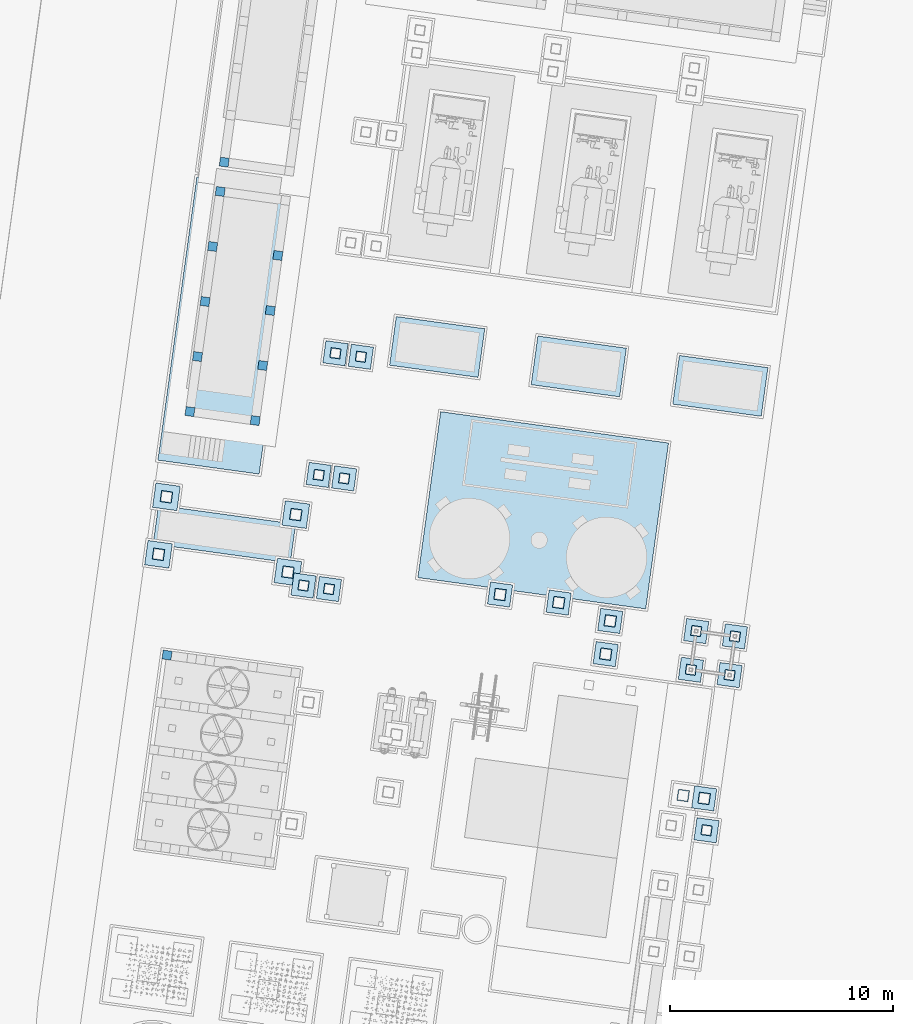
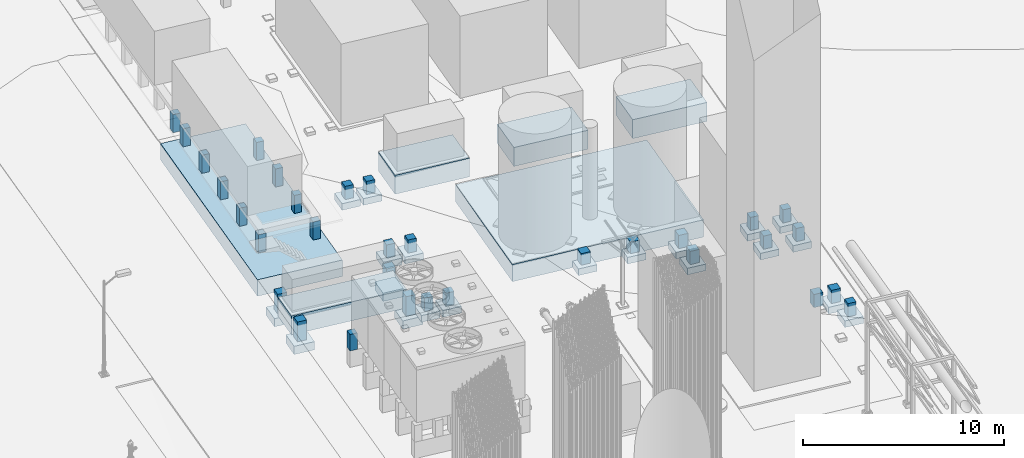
# Not in any storey, part 5 of 75: 58 footings.
"""IFC4 model written with IfcOpenShell, lengths in metres."""

from ifc_helpers import new_model, si_unit, direction, origin, origin_with_axes, place, context, subcontext, project, spatial, triangles, material, element, save


model = new_model("IFC4")

# Units and contexts
model_context = context("Model", 3, precision=1e-05, world=origin_with_axes(), true_north=direction((0.0, 1.0)))
body_context = subcontext(model_context, "Body", "Model", "MODEL_VIEW")
ifc_project = project(units=[si_unit("AREAUNIT", "SQUARE_METRE"), si_unit("VOLUMEUNIT", "CUBIC_METRE"), si_unit("LENGTHUNIT", "METRE")], contexts=[model_context])

# Site
site_placement = place(None, origin_with_axes())
site = spatial("IfcSite", under=ifc_project, at=site_placement, Name="Parcela industrial Jinhong")

# Footings
footing_1_placement = place(None, origin())
element("IfcFooting", 1, at=footing_1_placement, inside=site, Name="Base del preenfriador RU1101A · cuerpo de hormigón", PredefinedType="PAD_FOOTING", context=body_context, shape_type="Tessellation", body=[
    triangles([(51.276307, 65.996705, 0.1), (50.976658, 63.817207, 0.1), (47.013935, 64.362023, 0.1), (47.313583, 66.541521, 0.1), (51.276307, 65.996705, 1.25), (50.976658, 63.817207, 1.25), (47.013935, 64.362023, 1.25), (47.313583, 66.541521, 1.25)], [[1, 2, 3], [3, 4, 1], [7, 6, 5], [5, 8, 7], [5, 6, 1], [1, 6, 2], [6, 7, 2], [2, 7, 3], [8, 5, 4], [4, 5, 1], [7, 8, 3], [3, 8, 4]], closed=True),
])
footing_2_placement = place(None, origin())
element("IfcFooting", 2, at=footing_2_placement, inside=site, Name="Base del preenfriador RU1101B · cuerpo de hormigón", PredefinedType="PAD_FOOTING", context=body_context, shape_type="Tessellation", body=[
    triangles([(57.616664, 65.125, 0.1), (57.317015, 62.945502, 0.1), (53.354292, 63.490318, 0.1), (53.653941, 65.669816, 0.1), (57.616664, 65.125, 1.25), (57.317015, 62.945502, 1.25), (53.354292, 63.490318, 1.25), (53.653941, 65.669816, 1.25)], [[1, 2, 3], [3, 4, 1], [7, 6, 5], [5, 8, 7], [5, 6, 1], [1, 6, 2], [6, 7, 2], [2, 7, 3], [8, 5, 4], [4, 5, 1], [7, 8, 3], [3, 8, 4]], closed=True),
])
footing_3_placement = place(None, origin())
element("IfcFooting", 3, at=footing_3_placement, inside=site, Name="Base del preenfriador RU1101C · cuerpo de hormigón", PredefinedType="PAD_FOOTING", context=body_context, shape_type="Tessellation", body=[
    triangles([(63.957021, 64.253295, 0.1), (63.657372, 62.073797, 0.1), (59.694649, 62.618613, 0.1), (59.994298, 64.798111, 0.1), (63.957021, 64.253295, 1.25), (63.657372, 62.073797, 1.25), (59.694649, 62.618613, 1.25), (59.994298, 64.798111, 1.25)], [[1, 2, 3], [3, 4, 1], [7, 6, 5], [5, 8, 7], [5, 6, 1], [1, 6, 2], [6, 7, 2], [2, 7, 3], [8, 5, 4], [4, 5, 1], [7, 8, 3], [3, 8, 4]], closed=True),
])
footing_4_placement = place(None, origin())
element("IfcFooting", 4, at=footing_4_placement, inside=site, Name="Cimentación de purificación · cuerpo de hormigón", PredefinedType="PAD_FOOTING", context=body_context, shape_type="Tessellation", body=[
    triangles([(48.280284, 54.850905, 0.1), (49.301814, 62.281012, 0.1), (59.505826, 60.878111, 0.1), (58.484297, 53.448005, 0.1), (48.280284, 54.850905, 1.15), (49.301814, 62.281012, 1.15), (59.505826, 60.878111, 1.15), (58.484297, 53.448005, 1.15)], [[1, 2, 3], [3, 4, 1], [7, 6, 5], [5, 8, 7], [5, 6, 1], [1, 6, 2], [6, 7, 2], [2, 7, 3], [8, 5, 4], [4, 5, 1], [7, 8, 3], [3, 8, 4]], closed=True),
])
footing_5_placement = place(None, origin())
element("IfcFooting", 5, at=footing_5_placement, inside=site, Name="Cimentación común de torres de refrigeración · pilar DZ9 01", PredefinedType="PAD_FOOTING", context=body_context, shape_type="Tessellation", body=[
    triangles([(37.273024, 51.54937, 2.1), (37.218542, 51.153098, 2.1), (36.82227, 51.207579, 2.1), (36.876751, 51.603852, 2.1), (37.273024, 51.54937, 3.1), (37.218542, 51.153098, 3.1), (36.82227, 51.207579, 3.1), (36.876751, 51.603852, 3.1)], [[1, 2, 3], [3, 4, 1], [7, 6, 5], [5, 8, 7], [5, 6, 1], [1, 6, 2], [6, 7, 2], [2, 7, 3], [8, 5, 4], [4, 5, 1], [7, 8, 3], [3, 8, 4]], closed=True),
])
footing_6_placement = place(None, origin())
element("IfcFooting", 6, at=footing_6_placement, inside=site, Name="Base de bombas y dosificación · cuerpo de hormigón", PredefinedType="PAD_FOOTING", context=body_context, shape_type="Tessellation", body=[
    triangles([(42.805201, 57.243934, 0.1), (42.566844, 55.510243, 0.1), (36.424623, 56.354707, 0.1), (36.66298, 58.088399, 0.1), (42.805201, 57.243934, 1.25), (42.566844, 55.510243, 1.25), (36.424623, 56.354707, 1.25), (36.66298, 58.088399, 1.25)], [[1, 2, 3], [3, 4, 1], [7, 6, 5], [5, 8, 7], [5, 6, 1], [1, 6, 2], [6, 7, 2], [2, 7, 3], [8, 5, 4], [4, 5, 1], [7, 8, 3], [3, 8, 4]], closed=True),
])
footing_7_placement = place(None, origin())
element("IfcFooting", 7, at=footing_7_placement, inside=site, Name="Cimentación y plataforma del módulo LV-CONTAINER · pilar KZ1 06", PredefinedType="PAD_FOOTING", context=body_context, shape_type="Tessellation", body=[
    triangles([(39.437583, 73.680795, 1.1), (39.833855, 73.626314, 1.1), (39.779373, 73.230041, 1.1), (39.383101, 73.284523, 1.1), (39.437583, 73.680795, 2.2), (39.833855, 73.626314, 2.2), (39.779373, 73.230041, 2.2), (39.383101, 73.284523, 2.2)], [[1, 2, 3], [3, 4, 1], [7, 6, 5], [5, 8, 7], [5, 6, 1], [1, 6, 2], [6, 7, 2], [2, 7, 3], [8, 5, 4], [4, 5, 1], [7, 8, 3], [3, 8, 4]], closed=True),
])
footing_8_placement = place(None, origin())
element("IfcFooting", 8, at=footing_8_placement, inside=site, Name="Cimentación y plataforma del módulo IC-CONTAINER · cuerpo de hormigón", PredefinedType="PAD_FOOTING", context=body_context, shape_type="Tessellation", body=[
    triangles([(38.381594, 72.791336, 0.1), (42.913959, 72.168203, 0.1), (41.170548, 59.487489, 0.1), (36.638184, 60.110622, 0.1), (38.381594, 72.791336, 1.1), (42.913959, 72.168203, 1.1), (41.170548, 59.487489, 1.1), (36.638184, 60.110622, 1.1)], [[1, 2, 3], [3, 4, 1], [7, 6, 5], [5, 8, 7], [5, 6, 1], [1, 6, 2], [6, 7, 2], [2, 7, 3], [8, 5, 4], [4, 5, 1], [7, 8, 3], [3, 8, 4]], closed=True),
])
footing_9_placement = place(None, origin())
element("IfcFooting", 9, at=footing_9_placement, inside=site, Name="Cimentación y plataforma del módulo IC-CONTAINER · pilar KZ1 01", PredefinedType="PAD_FOOTING", context=body_context, shape_type="Tessellation", body=[
    triangles([(40.824392, 62.109067, 1.1), (41.220664, 62.054586, 1.1), (41.166183, 61.658313, 1.1), (40.76991, 61.712795, 1.1), (40.824392, 62.109067, 2.2), (41.220664, 62.054586, 2.2), (41.166183, 61.658313, 2.2), (40.76991, 61.712795, 2.2)], [[1, 2, 3], [3, 4, 1], [7, 6, 5], [5, 8, 7], [5, 6, 1], [1, 6, 2], [6, 7, 2], [2, 7, 3], [8, 5, 4], [4, 5, 1], [7, 8, 3], [3, 8, 4]], closed=True),
])
footing_10_placement = place(None, origin())
element("IfcFooting", 10, at=footing_10_placement, inside=site, Name="Cimentación y plataforma del módulo IC-CONTAINER · pilar KZ1 02", PredefinedType="PAD_FOOTING", context=body_context, shape_type="Tessellation", body=[
    triangles([(41.163199, 64.573386, 1.1), (41.559471, 64.518904, 1.1), (41.50499, 64.122632, 1.1), (41.108717, 64.177114, 1.1), (41.163199, 64.573386, 2.2), (41.559471, 64.518904, 2.2), (41.50499, 64.122632, 2.2), (41.108717, 64.177114, 2.2)], [[1, 2, 3], [3, 4, 1], [7, 6, 5], [5, 8, 7], [5, 6, 1], [1, 6, 2], [6, 7, 2], [2, 7, 3], [8, 5, 4], [4, 5, 1], [7, 8, 3], [3, 8, 4]], closed=True),
])
footing_11_placement = place(None, origin())
element("IfcFooting", 11, at=footing_11_placement, inside=site, Name="Cimentación y plataforma del módulo IC-CONTAINER · pilar KZ1 03", PredefinedType="PAD_FOOTING", context=body_context, shape_type="Tessellation", body=[
    triangles([(41.502006, 67.037704, 1.1), (41.898279, 66.983223, 1.1), (41.843797, 66.586951, 1.1), (41.447525, 66.641432, 1.1), (41.502006, 67.037704, 2.2), (41.898279, 66.983223, 2.2), (41.843797, 66.586951, 2.2), (41.447525, 66.641432, 2.2)], [[1, 2, 3], [3, 4, 1], [7, 6, 5], [5, 8, 7], [5, 6, 1], [1, 6, 2], [6, 7, 2], [2, 7, 3], [8, 5, 4], [4, 5, 1], [7, 8, 3], [3, 8, 4]], closed=True),
])
footing_12_placement = place(None, origin())
element("IfcFooting", 12, at=footing_12_placement, inside=site, Name="Cimentación y plataforma del módulo IC-CONTAINER · pilar KZ1 04", PredefinedType="PAD_FOOTING", context=body_context, shape_type="Tessellation", body=[
    triangles([(41.840814, 69.502023, 1.1), (42.237086, 69.447541, 1.1), (42.182604, 69.051269, 1.1), (41.786332, 69.105751, 1.1), (41.840814, 69.502023, 2.2), (42.237086, 69.447541, 2.2), (42.182604, 69.051269, 2.2), (41.786332, 69.105751, 2.2)], [[1, 2, 3], [3, 4, 1], [7, 6, 5], [5, 8, 7], [5, 6, 1], [1, 6, 2], [6, 7, 2], [2, 7, 3], [8, 5, 4], [4, 5, 1], [7, 8, 3], [3, 8, 4]], closed=True),
])
footing_13_placement = place(None, origin())
element("IfcFooting", 13, at=footing_13_placement, inside=site, Name="Cimentación y plataforma del módulo IC-CONTAINER · pilar KZ1 06", PredefinedType="PAD_FOOTING", context=body_context, shape_type="Tessellation", body=[
    triangles([(37.901883, 62.510869, 1.1), (38.298156, 62.456387, 1.1), (38.243674, 62.060115, 1.1), (37.847402, 62.114597, 1.1), (37.901883, 62.510869, 2.2), (38.298156, 62.456387, 2.2), (38.243674, 62.060115, 2.2), (37.847402, 62.114597, 2.2)], [[1, 2, 3], [3, 4, 1], [7, 6, 5], [5, 8, 7], [5, 6, 1], [1, 6, 2], [6, 7, 2], [2, 7, 3], [8, 5, 4], [4, 5, 1], [7, 8, 3], [3, 8, 4]], closed=True),
])
footing_14_placement = place(None, origin())
element("IfcFooting", 14, at=footing_14_placement, inside=site, Name="Cimentación y plataforma del módulo IC-CONTAINER · pilar KZ1 07", PredefinedType="PAD_FOOTING", context=body_context, shape_type="Tessellation", body=[
    triangles([(38.240691, 64.975188, 1.1), (38.636963, 64.920706, 1.1), (38.582481, 64.524434, 1.1), (38.186209, 64.578915, 1.1), (38.240691, 64.975188, 2.2), (38.636963, 64.920706, 2.2), (38.582481, 64.524434, 2.2), (38.186209, 64.578915, 2.2)], [[1, 2, 3], [3, 4, 1], [7, 6, 5], [5, 8, 7], [5, 6, 1], [1, 6, 2], [6, 7, 2], [2, 7, 3], [8, 5, 4], [4, 5, 1], [7, 8, 3], [3, 8, 4]], closed=True),
])
footing_15_placement = place(None, origin())
element("IfcFooting", 15, at=footing_15_placement, inside=site, Name="Cimentación y plataforma del módulo IC-CONTAINER · pilar KZ1 08", PredefinedType="PAD_FOOTING", context=body_context, shape_type="Tessellation", body=[
    triangles([(38.579498, 67.439506, 1.1), (38.97577, 67.385024, 1.1), (38.921289, 66.988752, 1.1), (38.525016, 67.043234, 1.1), (38.579498, 67.439506, 2.2), (38.97577, 67.385024, 2.2), (38.921289, 66.988752, 2.2), (38.525016, 67.043234, 2.2)], [[1, 2, 3], [3, 4, 1], [7, 6, 5], [5, 8, 7], [5, 6, 1], [1, 6, 2], [6, 7, 2], [2, 7, 3], [8, 5, 4], [4, 5, 1], [7, 8, 3], [3, 8, 4]], closed=True),
])
footing_16_placement = place(None, origin())
element("IfcFooting", 16, at=footing_16_placement, inside=site, Name="Cimentación y plataforma del módulo IC-CONTAINER · pilar KZ1 09", PredefinedType="PAD_FOOTING", context=body_context, shape_type="Tessellation", body=[
    triangles([(38.918305, 69.903825, 1.1), (39.314577, 69.849343, 1.1), (39.260096, 69.453071, 1.1), (38.863824, 69.507552, 1.1), (38.918305, 69.903825, 2.2), (39.314577, 69.849343, 2.2), (39.260096, 69.453071, 2.2), (38.863824, 69.507552, 2.2)], [[1, 2, 3], [3, 4, 1], [7, 6, 5], [5, 8, 7], [5, 6, 1], [1, 6, 2], [6, 7, 2], [2, 7, 3], [8, 5, 4], [4, 5, 1], [7, 8, 3], [3, 8, 4]], closed=True),
])
footing_17_placement = place(None, origin())
element("IfcFooting", 17, at=footing_17_placement, inside=site, Name="Cimentación y plataforma del módulo IC-CONTAINER · pilar KZ1 10", PredefinedType="PAD_FOOTING", context=body_context, shape_type="Tessellation", body=[
    triangles([(39.257112, 72.368143, 1.1), (39.653385, 72.313662, 1.1), (39.598903, 71.917389, 1.1), (39.202631, 71.971871, 1.1), (39.257112, 72.368143, 2.2), (39.653385, 72.313662, 2.2), (39.598903, 71.917389, 2.2), (39.202631, 71.971871, 2.2)], [[1, 2, 3], [3, 4, 1], [7, 6, 5], [5, 8, 7], [5, 6, 1], [1, 6, 2], [6, 7, 2], [2, 7, 3], [8, 5, 4], [4, 5, 1], [7, 8, 3], [3, 8, 4]], closed=True),
])
ifc_material = material(Name="Hormigón HA-30", Category="Material documentado")
footing_18_placement = place(None, origin())
element("IfcFooting", 18, at=footing_18_placement, inside=site, material=ifc_material, Name="Cimentación de soporte de tuberías C11 · cuerpo de hormigón", PredefinedType="PAD_FOOTING", context=body_context, shape_type="Tessellation", body=[
    triangles([(44.025798, 64.470025, 0.1), (44.162002, 65.460706, 0.1), (45.152683, 65.324502, 0.1), (45.016479, 64.333822, 0.1), (44.025798, 64.470025, 0.5), (44.162002, 65.460706, 0.5), (45.152683, 65.324502, 0.5), (45.016479, 64.333822, 0.5)], [[1, 2, 3], [3, 4, 1], [7, 6, 5], [5, 8, 7], [5, 6, 1], [1, 6, 2], [6, 7, 2], [2, 7, 3], [8, 5, 4], [4, 5, 1], [7, 8, 3], [3, 8, 4]], closed=True),
])
footing_19_placement = place(None, origin())
element("IfcFooting", 19, at=footing_19_placement, inside=site, material=ifc_material, Name="Cimentación de soporte de tuberías C11 · pedestal de hormigón", PredefinedType="PAD_FOOTING", context=body_context, shape_type="Tessellation", body=[
    triangles([(44.335691, 64.705007, 0.5), (44.396983, 65.150813, 0.5), (44.842789, 65.089521, 0.5), (44.781498, 64.643715, 0.5), (44.335691, 64.705007, 1.3), (44.396983, 65.150813, 1.3), (44.842789, 65.089521, 1.3), (44.781498, 64.643715, 1.3)], [[1, 2, 3], [3, 4, 1], [7, 6, 5], [5, 8, 7], [5, 6, 1], [1, 6, 2], [6, 7, 2], [2, 7, 3], [8, 5, 4], [4, 5, 1], [7, 8, 3], [3, 8, 4]], closed=True),
])
footing_20_placement = place(None, origin())
element("IfcFooting", 20, at=footing_20_placement, inside=site, material=ifc_material, Name="Cimentación de soporte de tuberías C12 · cuerpo de hormigón", PredefinedType="PAD_FOOTING", context=body_context, shape_type="Tessellation", body=[
    triangles([(45.165081, 64.313391, 0.1), (45.301285, 65.304072, 0.1), (46.291966, 65.167868, 0.1), (46.155762, 64.177187, 0.1), (45.165081, 64.313391, 0.5), (45.301285, 65.304072, 0.5), (46.291966, 65.167868, 0.5), (46.155762, 64.177187, 0.5)], [[1, 2, 3], [3, 4, 1], [7, 6, 5], [5, 8, 7], [5, 6, 1], [1, 6, 2], [6, 7, 2], [2, 7, 3], [8, 5, 4], [4, 5, 1], [7, 8, 3], [3, 8, 4]], closed=True),
])
footing_21_placement = place(None, origin())
element("IfcFooting", 21, at=footing_21_placement, inside=site, material=ifc_material, Name="Cimentación de soporte de tuberías C12 · pedestal de hormigón", PredefinedType="PAD_FOOTING", context=body_context, shape_type="Tessellation", body=[
    triangles([(45.474974, 64.548372, 0.5), (45.536266, 64.994178, 0.5), (45.982072, 64.932887, 0.5), (45.920781, 64.48708, 0.5), (45.474974, 64.548372, 1.3), (45.536266, 64.994178, 1.3), (45.982072, 64.932887, 1.3), (45.920781, 64.48708, 1.3)], [[1, 2, 3], [3, 4, 1], [7, 6, 5], [5, 8, 7], [5, 6, 1], [1, 6, 2], [6, 7, 2], [2, 7, 3], [8, 5, 4], [4, 5, 1], [7, 8, 3], [3, 8, 4]], closed=True),
])
footing_22_placement = place(None, origin())
element("IfcFooting", 22, at=footing_22_placement, inside=site, material=ifc_material, Name="Cimentación de soporte de tuberías C13 · cuerpo de hormigón", PredefinedType="PAD_FOOTING", context=body_context, shape_type="Tessellation", body=[
    triangles([(43.276676, 59.021281, 0.1), (43.41288, 60.011962, 0.1), (44.403561, 59.875758, 0.1), (44.267357, 58.885077, 0.1), (43.276676, 59.021281, 0.5), (43.41288, 60.011962, 0.5), (44.403561, 59.875758, 0.5), (44.267357, 58.885077, 0.5)], [[1, 2, 3], [3, 4, 1], [7, 6, 5], [5, 8, 7], [5, 6, 1], [1, 6, 2], [6, 7, 2], [2, 7, 3], [8, 5, 4], [4, 5, 1], [7, 8, 3], [3, 8, 4]], closed=True),
])
footing_23_placement = place(None, origin())
element("IfcFooting", 23, at=footing_23_placement, inside=site, material=ifc_material, Name="Cimentación de soporte de tuberías C13 · pedestal de hormigón", PredefinedType="PAD_FOOTING", context=body_context, shape_type="Tessellation", body=[
    triangles([(43.58657, 59.256262, 0.5), (43.647862, 59.702068, 0.5), (44.093668, 59.640777, 0.5), (44.032376, 59.19497, 0.5), (43.58657, 59.256262, 1.3), (43.647862, 59.702068, 1.3), (44.093668, 59.640777, 1.3), (44.032376, 59.19497, 1.3)], [[1, 2, 3], [3, 4, 1], [7, 6, 5], [5, 8, 7], [5, 6, 1], [1, 6, 2], [6, 7, 2], [2, 7, 3], [8, 5, 4], [4, 5, 1], [7, 8, 3], [3, 8, 4]], closed=True),
])
footing_24_placement = place(None, origin())
element("IfcFooting", 24, at=footing_24_placement, inside=site, material=ifc_material, Name="Cimentación de soporte de tuberías C14 · cuerpo de hormigón", PredefinedType="PAD_FOOTING", context=body_context, shape_type="Tessellation", body=[
    triangles([(44.415959, 58.864646, 0.1), (44.552163, 59.855327, 0.1), (45.542844, 59.719123, 0.1), (45.40664, 58.728443, 0.1), (44.415959, 58.864646, 0.5), (44.552163, 59.855327, 0.5), (45.542844, 59.719123, 0.5), (45.40664, 58.728443, 0.5)], [[1, 2, 3], [3, 4, 1], [7, 6, 5], [5, 8, 7], [5, 6, 1], [1, 6, 2], [6, 7, 2], [2, 7, 3], [8, 5, 4], [4, 5, 1], [7, 8, 3], [3, 8, 4]], closed=True),
])
footing_25_placement = place(None, origin())
element("IfcFooting", 25, at=footing_25_placement, inside=site, material=ifc_material, Name="Cimentación de soporte de tuberías C14 · pedestal de hormigón", PredefinedType="PAD_FOOTING", context=body_context, shape_type="Tessellation", body=[
    triangles([(44.725853, 59.099628, 0.5), (44.787144, 59.545434, 0.5), (45.232951, 59.484142, 0.5), (45.171659, 59.038336, 0.5), (44.725853, 59.099628, 1.3), (44.787144, 59.545434, 1.3), (45.232951, 59.484142, 1.3), (45.171659, 59.038336, 1.3)], [[1, 2, 3], [3, 4, 1], [7, 6, 5], [5, 8, 7], [5, 6, 1], [1, 6, 2], [6, 7, 2], [2, 7, 3], [8, 5, 4], [4, 5, 1], [7, 8, 3], [3, 8, 4]], closed=True),
])
footing_26_placement = place(None, origin())
element("IfcFooting", 26, at=footing_26_placement, inside=site, material=ifc_material, Name="Cimentación de marquesina C15 · cuerpo de hormigón", PredefinedType="PAD_FOOTING", context=body_context, shape_type="Tessellation", body=[
    triangles([(36.398284, 57.998615, -0.4), (36.548109, 59.088363, -0.4), (37.637858, 58.938539, -0.4), (37.488033, 57.84879, -0.4), (36.398284, 57.998615, 0.1), (36.548109, 59.088363, 0.1), (37.637858, 58.938539, 0.1), (37.488033, 57.84879, 0.1)], [[1, 2, 3], [3, 4, 1], [7, 6, 5], [5, 8, 7], [5, 6, 1], [1, 6, 2], [6, 7, 2], [2, 7, 3], [8, 5, 4], [4, 5, 1], [7, 8, 3], [3, 8, 4]], closed=True),
])
footing_27_placement = place(None, origin())
element("IfcFooting", 27, at=footing_27_placement, inside=site, material=ifc_material, Name="Cimentación de marquesina C15 · pedestal de hormigón", PredefinedType="PAD_FOOTING", context=body_context, shape_type="Tessellation", body=[
    triangles([(36.73635, 58.254958, 0.1), (36.804452, 58.750298, 0.1), (37.299792, 58.682196, 0.1), (37.23169, 58.186856, 0.1), (36.73635, 58.254958, 1.3), (36.804452, 58.750298, 1.3), (37.299792, 58.682196, 1.3), (37.23169, 58.186856, 1.3)], [[1, 2, 3], [3, 4, 1], [7, 6, 5], [5, 8, 7], [5, 6, 1], [1, 6, 2], [6, 7, 2], [2, 7, 3], [8, 5, 4], [4, 5, 1], [7, 8, 3], [3, 8, 4]], closed=True),
])
footing_28_placement = place(None, origin())
element("IfcFooting", 28, at=footing_28_placement, inside=site, material=ifc_material, Name="Cimentación de marquesina C16 · cuerpo de hormigón", PredefinedType="PAD_FOOTING", context=body_context, shape_type="Tessellation", body=[
    triangles([(36.044154, 55.422844, -0.4), (36.193978, 56.512593, -0.4), (37.283727, 56.362769, -0.4), (37.133903, 55.27302, -0.4), (36.044154, 55.422844, 0.1), (36.193978, 56.512593, 0.1), (37.283727, 56.362769, 0.1), (37.133903, 55.27302, 0.1)], [[1, 2, 3], [3, 4, 1], [7, 6, 5], [5, 8, 7], [5, 6, 1], [1, 6, 2], [6, 7, 2], [2, 7, 3], [8, 5, 4], [4, 5, 1], [7, 8, 3], [3, 8, 4]], closed=True),
])
footing_29_placement = place(None, origin())
element("IfcFooting", 29, at=footing_29_placement, inside=site, material=ifc_material, Name="Cimentación de marquesina C16 · pedestal de hormigón", PredefinedType="PAD_FOOTING", context=body_context, shape_type="Tessellation", body=[
    triangles([(36.38222, 55.679187, 0.1), (36.450321, 56.174528, 0.1), (36.945662, 56.106426, 0.1), (36.87756, 55.611086, 0.1), (36.38222, 55.679187, 1.3), (36.450321, 56.174528, 1.3), (36.945662, 56.106426, 1.3), (36.87756, 55.611086, 1.3)], [[1, 2, 3], [3, 4, 1], [7, 6, 5], [5, 8, 7], [5, 6, 1], [1, 6, 2], [6, 7, 2], [2, 7, 3], [8, 5, 4], [4, 5, 1], [7, 8, 3], [3, 8, 4]], closed=True),
])
footing_30_placement = place(None, origin())
element("IfcFooting", 30, at=footing_30_placement, inside=site, material=ifc_material, Name="Cimentación de marquesina C17 · cuerpo de hormigón", PredefinedType="PAD_FOOTING", context=body_context, shape_type="Tessellation", body=[
    triangles([(42.193767, 57.201822, -0.4), (42.343591, 58.291571, -0.4), (43.43334, 58.141746, -0.4), (43.283516, 57.051997, -0.4), (42.193767, 57.201822, 0.1), (42.343591, 58.291571, 0.1), (43.43334, 58.141746, 0.1), (43.283516, 57.051997, 0.1)], [[1, 2, 3], [3, 4, 1], [7, 6, 5], [5, 8, 7], [5, 6, 1], [1, 6, 2], [6, 7, 2], [2, 7, 3], [8, 5, 4], [4, 5, 1], [7, 8, 3], [3, 8, 4]], closed=True),
])
footing_31_placement = place(None, origin())
element("IfcFooting", 31, at=footing_31_placement, inside=site, material=ifc_material, Name="Cimentación de marquesina C17 · pedestal de hormigón", PredefinedType="PAD_FOOTING", context=body_context, shape_type="Tessellation", body=[
    triangles([(42.531833, 57.458165, 0.1), (42.599934, 57.953505, 0.1), (43.095275, 57.885403, 0.1), (43.027173, 57.390063, 0.1), (42.531833, 57.458165, 1.3), (42.599934, 57.953505, 1.3), (43.095275, 57.885403, 1.3), (43.027173, 57.390063, 1.3)], [[1, 2, 3], [3, 4, 1], [7, 6, 5], [5, 8, 7], [5, 6, 1], [1, 6, 2], [6, 7, 2], [2, 7, 3], [8, 5, 4], [4, 5, 1], [7, 8, 3], [3, 8, 4]], closed=True),
])
footing_32_placement = place(None, origin())
element("IfcFooting", 32, at=footing_32_placement, inside=site, material=ifc_material, Name="Cimentación de marquesina C18 · cuerpo de hormigón", PredefinedType="PAD_FOOTING", context=body_context, shape_type="Tessellation", body=[
    triangles([(41.839637, 54.626051, -0.4), (41.989461, 55.7158, -0.4), (43.07921, 55.565976, -0.4), (42.929386, 54.476227, -0.4), (41.839637, 54.626051, 0.1), (41.989461, 55.7158, 0.1), (43.07921, 55.565976, 0.1), (42.929386, 54.476227, 0.1)], [[1, 2, 3], [3, 4, 1], [7, 6, 5], [5, 8, 7], [5, 6, 1], [1, 6, 2], [6, 7, 2], [2, 7, 3], [8, 5, 4], [4, 5, 1], [7, 8, 3], [3, 8, 4]], closed=True),
])
footing_33_placement = place(None, origin())
element("IfcFooting", 33, at=footing_33_placement, inside=site, material=ifc_material, Name="Cimentación de marquesina C18 · pedestal de hormigón", PredefinedType="PAD_FOOTING", context=body_context, shape_type="Tessellation", body=[
    triangles([(42.177702, 54.882395, 0.1), (42.245804, 55.377735, 0.1), (42.741145, 55.309633, 0.1), (42.673043, 54.814293, 0.1), (42.177702, 54.882395, 1.3), (42.245804, 55.377735, 1.3), (42.741145, 55.309633, 1.3), (42.673043, 54.814293, 1.3)], [[1, 2, 3], [3, 4, 1], [7, 6, 5], [5, 8, 7], [5, 6, 1], [1, 6, 2], [6, 7, 2], [2, 7, 3], [8, 5, 4], [4, 5, 1], [7, 8, 3], [3, 8, 4]], closed=True),
])
footing_34_placement = place(None, origin())
element("IfcFooting", 34, at=footing_34_placement, inside=site, material=ifc_material, Name="Cimentación de soporte de tuberías C19 · cuerpo de hormigón", PredefinedType="PAD_FOOTING", context=body_context, shape_type="Tessellation", body=[
    triangles([(42.595657, 54.067877, 0.1), (42.731861, 55.058558, 0.1), (43.722542, 54.922354, 0.1), (43.586338, 53.931673, 0.1), (42.595657, 54.067877, 0.5), (42.731861, 55.058558, 0.5), (43.722542, 54.922354, 0.5), (43.586338, 53.931673, 0.5)], [[1, 2, 3], [3, 4, 1], [7, 6, 5], [5, 8, 7], [5, 6, 1], [1, 6, 2], [6, 7, 2], [2, 7, 3], [8, 5, 4], [4, 5, 1], [7, 8, 3], [3, 8, 4]], closed=True),
])
footing_35_placement = place(None, origin())
element("IfcFooting", 35, at=footing_35_placement, inside=site, material=ifc_material, Name="Cimentación de soporte de tuberías C19 · pedestal de hormigón", PredefinedType="PAD_FOOTING", context=body_context, shape_type="Tessellation", body=[
    triangles([(42.90555, 54.302858, 0.5), (42.966842, 54.748664, 0.5), (43.412648, 54.687373, 0.5), (43.351356, 54.241566, 0.5), (42.90555, 54.302858, 1.3), (42.966842, 54.748664, 1.3), (43.412648, 54.687373, 1.3), (43.351356, 54.241566, 1.3)], [[1, 2, 3], [3, 4, 1], [7, 6, 5], [5, 8, 7], [5, 6, 1], [1, 6, 2], [6, 7, 2], [2, 7, 3], [8, 5, 4], [4, 5, 1], [7, 8, 3], [3, 8, 4]], closed=True),
])
footing_36_placement = place(None, origin())
element("IfcFooting", 36, at=footing_36_placement, inside=site, material=ifc_material, Name="Cimentación de soporte de tuberías C20 · cuerpo de hormigón", PredefinedType="PAD_FOOTING", context=body_context, shape_type="Tessellation", body=[
    triangles([(43.73494, 53.911242, 0.1), (43.871144, 54.901923, 0.1), (44.861825, 54.765719, 0.1), (44.725621, 53.775038, 0.1), (43.73494, 53.911242, 0.5), (43.871144, 54.901923, 0.5), (44.861825, 54.765719, 0.5), (44.725621, 53.775038, 0.5)], [[1, 2, 3], [3, 4, 1], [7, 6, 5], [5, 8, 7], [5, 6, 1], [1, 6, 2], [6, 7, 2], [2, 7, 3], [8, 5, 4], [4, 5, 1], [7, 8, 3], [3, 8, 4]], closed=True),
])
footing_37_placement = place(None, origin())
element("IfcFooting", 37, at=footing_37_placement, inside=site, material=ifc_material, Name="Cimentación de soporte de tuberías C20 · pedestal de hormigón", PredefinedType="PAD_FOOTING", context=body_context, shape_type="Tessellation", body=[
    triangles([(44.044833, 54.146223, 0.5), (44.106125, 54.59203, 0.5), (44.551931, 54.530738, 0.5), (44.490639, 54.084932, 0.5), (44.044833, 54.146223, 1.3), (44.106125, 54.59203, 1.3), (44.551931, 54.530738, 1.3), (44.490639, 54.084932, 1.3)], [[1, 2, 3], [3, 4, 1], [7, 6, 5], [5, 8, 7], [5, 6, 1], [1, 6, 2], [6, 7, 2], [2, 7, 3], [8, 5, 4], [4, 5, 1], [7, 8, 3], [3, 8, 4]], closed=True),
])
footing_38_placement = place(None, origin())
element("IfcFooting", 38, at=footing_38_placement, inside=site, material=ifc_material, Name="Cimentación de soporte de tuberías C21 · cuerpo de hormigón", PredefinedType="PAD_FOOTING", context=body_context, shape_type="Tessellation", body=[
    triangles([(51.397844, 53.665232, 0.1), (51.534048, 54.655913, 0.1), (52.524729, 54.519709, 0.1), (52.388525, 53.529028, 0.1), (51.397844, 53.665232, 0.5), (51.534048, 54.655913, 0.5), (52.524729, 54.519709, 0.5), (52.388525, 53.529028, 0.5)], [[1, 2, 3], [3, 4, 1], [7, 6, 5], [5, 8, 7], [5, 6, 1], [1, 6, 2], [6, 7, 2], [2, 7, 3], [8, 5, 4], [4, 5, 1], [7, 8, 3], [3, 8, 4]], closed=True),
])
footing_39_placement = place(None, origin())
element("IfcFooting", 39, at=footing_39_placement, inside=site, material=ifc_material, Name="Cimentación de soporte de tuberías C21 · pedestal de hormigón", PredefinedType="PAD_FOOTING", context=body_context, shape_type="Tessellation", body=[
    triangles([(51.679565, 53.878851, 0.5), (51.747667, 54.374192, 0.5), (52.243008, 54.30609, 0.5), (52.174906, 53.810749, 0.5), (51.679565, 53.878851, 1.2), (51.747667, 54.374192, 1.2), (52.243008, 54.30609, 1.2), (52.174906, 53.810749, 1.2)], [[1, 2, 3], [3, 4, 1], [7, 6, 5], [5, 8, 7], [5, 6, 1], [1, 6, 2], [6, 7, 2], [2, 7, 3], [8, 5, 4], [4, 5, 1], [7, 8, 3], [3, 8, 4]], closed=True),
])
footing_40_placement = place(None, origin())
element("IfcFooting", 40, at=footing_40_placement, inside=site, material=ifc_material, Name="Cimentación de soporte de tuberías C22 · cuerpo de hormigón", PredefinedType="PAD_FOOTING", context=body_context, shape_type="Tessellation", body=[
    triangles([(54.023148, 53.304292, 0.1), (54.159352, 54.294972, 0.1), (55.150033, 54.158769, 0.1), (55.013829, 53.168088, 0.1), (54.023148, 53.304292, 0.5), (54.159352, 54.294972, 0.5), (55.150033, 54.158769, 0.5), (55.013829, 53.168088, 0.5)], [[1, 2, 3], [3, 4, 1], [7, 6, 5], [5, 8, 7], [5, 6, 1], [1, 6, 2], [6, 7, 2], [2, 7, 3], [8, 5, 4], [4, 5, 1], [7, 8, 3], [3, 8, 4]], closed=True),
])
footing_41_placement = place(None, origin())
element("IfcFooting", 41, at=footing_41_placement, inside=site, material=ifc_material, Name="Cimentación de soporte de tuberías C22 · pedestal de hormigón", PredefinedType="PAD_FOOTING", context=body_context, shape_type="Tessellation", body=[
    triangles([(54.30487, 53.517911, 0.5), (54.372971, 54.013251, 0.5), (54.868312, 53.945149, 0.5), (54.80021, 53.449809, 0.5), (54.30487, 53.517911, 1.2), (54.372971, 54.013251, 1.2), (54.868312, 53.945149, 1.2), (54.80021, 53.449809, 1.2)], [[1, 2, 3], [3, 4, 1], [7, 6, 5], [5, 8, 7], [5, 6, 1], [1, 6, 2], [6, 7, 2], [2, 7, 3], [8, 5, 4], [4, 5, 1], [7, 8, 3], [3, 8, 4]], closed=True),
])
footing_42_placement = place(None, origin())
element("IfcFooting", 42, at=footing_42_placement, inside=site, material=ifc_material, Name="Cimentación de soporte de tuberías C23 · cuerpo de hormigón", PredefinedType="PAD_FOOTING", context=body_context, shape_type="Tessellation", body=[
    triangles([(56.33268, 52.482062, 0.1), (56.468884, 53.472743, 0.1), (57.459565, 53.336539, 0.1), (57.323361, 52.345858, 0.1), (56.33268, 52.482062, 0.5), (56.468884, 53.472743, 0.5), (57.459565, 53.336539, 0.5), (57.323361, 52.345858, 0.5)], [[1, 2, 3], [3, 4, 1], [7, 6, 5], [5, 8, 7], [5, 6, 1], [1, 6, 2], [6, 7, 2], [2, 7, 3], [8, 5, 4], [4, 5, 1], [7, 8, 3], [3, 8, 4]], closed=True),
])
footing_43_placement = place(None, origin())
element("IfcFooting", 43, at=footing_43_placement, inside=site, material=ifc_material, Name="Cimentación de soporte de tuberías C23 · pedestal de hormigón", PredefinedType="PAD_FOOTING", context=body_context, shape_type="Tessellation", body=[
    triangles([(56.614402, 52.695681, 0.5), (56.682503, 53.191021, 0.5), (57.177844, 53.12292, 0.5), (57.109742, 52.627579, 0.5), (56.614402, 52.695681, 1.3), (56.682503, 53.191021, 1.3), (57.177844, 53.12292, 1.3), (57.109742, 52.627579, 1.3)], [[1, 2, 3], [3, 4, 1], [7, 6, 5], [5, 8, 7], [5, 6, 1], [1, 6, 2], [6, 7, 2], [2, 7, 3], [8, 5, 4], [4, 5, 1], [7, 8, 3], [3, 8, 4]], closed=True),
])
footing_44_placement = place(None, origin())
element("IfcFooting", 44, at=footing_44_placement, inside=site, material=ifc_material, Name="Cimentación de soporte de tuberías C24 · cuerpo de hormigón", PredefinedType="PAD_FOOTING", context=body_context, shape_type="Tessellation", body=[
    triangles([(56.128374, 50.996041, 0.1), (56.264578, 51.986721, 0.1), (57.255259, 51.850518, 0.1), (57.119055, 50.859837, 0.1), (56.128374, 50.996041, 0.5), (56.264578, 51.986721, 0.5), (57.255259, 51.850518, 0.5), (57.119055, 50.859837, 0.5)], [[1, 2, 3], [3, 4, 1], [7, 6, 5], [5, 8, 7], [5, 6, 1], [1, 6, 2], [6, 7, 2], [2, 7, 3], [8, 5, 4], [4, 5, 1], [7, 8, 3], [3, 8, 4]], closed=True),
])
footing_45_placement = place(None, origin())
element("IfcFooting", 45, at=footing_45_placement, inside=site, material=ifc_material, Name="Cimentación de soporte de tuberías C24 · pedestal de hormigón", PredefinedType="PAD_FOOTING", context=body_context, shape_type="Tessellation", body=[
    triangles([(56.410096, 51.20966, 0.5), (56.478198, 51.705, 0.5), (56.973538, 51.636898, 0.5), (56.905436, 51.141558, 0.5), (56.410096, 51.20966, 1.3), (56.478198, 51.705, 1.3), (56.973538, 51.636898, 1.3), (56.905436, 51.141558, 1.3)], [[1, 2, 3], [3, 4, 1], [7, 6, 5], [5, 8, 7], [5, 6, 1], [1, 6, 2], [6, 7, 2], [2, 7, 3], [8, 5, 4], [4, 5, 1], [7, 8, 3], [3, 8, 4]], closed=True),
])
footing_46_placement = place(None, origin())
element("IfcFooting", 46, at=footing_46_placement, inside=site, material=ifc_material, Name="Cimentación de soporte de tuberías C25 · cuerpo de hormigón", PredefinedType="PAD_FOOTING", context=body_context, shape_type="Tessellation", body=[
    triangles([(60.181784, 52.028573, 0.1), (60.317988, 53.019254, 0.1), (61.308669, 52.88305, 0.1), (61.172465, 51.892369, 0.1), (60.181784, 52.028573, 0.5), (60.317988, 53.019254, 0.5), (61.308669, 52.88305, 0.5), (61.172465, 51.892369, 0.5)], [[1, 2, 3], [3, 4, 1], [7, 6, 5], [5, 8, 7], [5, 6, 1], [1, 6, 2], [6, 7, 2], [2, 7, 3], [8, 5, 4], [4, 5, 1], [7, 8, 3], [3, 8, 4]], closed=True),
])
footing_47_placement = place(None, origin())
element("IfcFooting", 47, at=footing_47_placement, inside=site, material=ifc_material, Name="Cimentación de soporte de tuberías C25 · pedestal de hormigón", PredefinedType="PAD_FOOTING", context=body_context, shape_type="Tessellation", body=[
    triangles([(60.491677, 52.263554, 0.5), (60.552969, 52.70936, 0.5), (60.998775, 52.648068, 0.5), (60.937484, 52.202262, 0.5), (60.491677, 52.263554, 1.3), (60.552969, 52.70936, 1.3), (60.998775, 52.648068, 1.3), (60.937484, 52.202262, 1.3)], [[1, 2, 3], [3, 4, 1], [7, 6, 5], [5, 8, 7], [5, 6, 1], [1, 6, 2], [6, 7, 2], [2, 7, 3], [8, 5, 4], [4, 5, 1], [7, 8, 3], [3, 8, 4]], closed=True),
])
footing_48_placement = place(None, origin())
element("IfcFooting", 48, at=footing_48_placement, inside=site, material=ifc_material, Name="Cimentación de soporte de tuberías C26 · cuerpo de hormigón", PredefinedType="PAD_FOOTING", context=body_context, shape_type="Tessellation", body=[
    triangles([(61.915475, 51.790216, 0.1), (62.051679, 52.780897, 0.1), (63.04236, 52.644693, 0.1), (62.906156, 51.654012, 0.1), (61.915475, 51.790216, 0.5), (62.051679, 52.780897, 0.5), (63.04236, 52.644693, 0.5), (62.906156, 51.654012, 0.5)], [[1, 2, 3], [3, 4, 1], [7, 6, 5], [5, 8, 7], [5, 6, 1], [1, 6, 2], [6, 7, 2], [2, 7, 3], [8, 5, 4], [4, 5, 1], [7, 8, 3], [3, 8, 4]], closed=True),
])
footing_49_placement = place(None, origin())
element("IfcFooting", 49, at=footing_49_placement, inside=site, material=ifc_material, Name="Cimentación de soporte de tuberías C26 · pedestal de hormigón", PredefinedType="PAD_FOOTING", context=body_context, shape_type="Tessellation", body=[
    triangles([(62.225369, 52.025197, 0.5), (62.28666, 52.471003, 0.5), (62.732467, 52.409712, 0.5), (62.671175, 51.963905, 0.5), (62.225369, 52.025197, 1.3), (62.28666, 52.471003, 1.3), (62.732467, 52.409712, 1.3), (62.671175, 51.963905, 1.3)], [[1, 2, 3], [3, 4, 1], [7, 6, 5], [5, 8, 7], [5, 6, 1], [1, 6, 2], [6, 7, 2], [2, 7, 3], [8, 5, 4], [4, 5, 1], [7, 8, 3], [3, 8, 4]], closed=True),
])
footing_50_placement = place(None, origin())
element("IfcFooting", 50, at=footing_50_placement, inside=site, material=ifc_material, Name="Cimentación de soporte de tuberías C27 · cuerpo de hormigón", PredefinedType="PAD_FOOTING", context=body_context, shape_type="Tessellation", body=[
    triangles([(59.943427, 50.294881, 0.1), (60.079631, 51.285562, 0.1), (61.070312, 51.149358, 0.1), (60.934108, 50.158677, 0.1), (59.943427, 50.294881, 0.5), (60.079631, 51.285562, 0.5), (61.070312, 51.149358, 0.5), (60.934108, 50.158677, 0.5)], [[1, 2, 3], [3, 4, 1], [7, 6, 5], [5, 8, 7], [5, 6, 1], [1, 6, 2], [6, 7, 2], [2, 7, 3], [8, 5, 4], [4, 5, 1], [7, 8, 3], [3, 8, 4]], closed=True),
])
footing_51_placement = place(None, origin())
element("IfcFooting", 51, at=footing_51_placement, inside=site, material=ifc_material, Name="Cimentación de soporte de tuberías C27 · pedestal de hormigón", PredefinedType="PAD_FOOTING", context=body_context, shape_type="Tessellation", body=[
    triangles([(60.25332, 50.529862, 0.5), (60.314612, 50.975669, 0.5), (60.760418, 50.914377, 0.5), (60.699127, 50.468571, 0.5), (60.25332, 50.529862, 1.3), (60.314612, 50.975669, 1.3), (60.760418, 50.914377, 1.3), (60.699127, 50.468571, 1.3)], [[1, 2, 3], [3, 4, 1], [7, 6, 5], [5, 8, 7], [5, 6, 1], [1, 6, 2], [6, 7, 2], [2, 7, 3], [8, 5, 4], [4, 5, 1], [7, 8, 3], [3, 8, 4]], closed=True),
])
footing_52_placement = place(None, origin())
element("IfcFooting", 52, at=footing_52_placement, inside=site, material=ifc_material, Name="Cimentación de soporte de tuberías C28 · cuerpo de hormigón", PredefinedType="PAD_FOOTING", context=body_context, shape_type="Tessellation", body=[
    triangles([(61.677118, 50.056524, 0.1), (61.813322, 51.047205, 0.1), (62.804003, 50.911001, 0.1), (62.667799, 49.92032, 0.1), (61.677118, 50.056524, 0.5), (61.813322, 51.047205, 0.5), (62.804003, 50.911001, 0.5), (62.667799, 49.92032, 0.5)], [[1, 2, 3], [3, 4, 1], [7, 6, 5], [5, 8, 7], [5, 6, 1], [1, 6, 2], [6, 7, 2], [2, 7, 3], [8, 5, 4], [4, 5, 1], [7, 8, 3], [3, 8, 4]], closed=True),
])
footing_53_placement = place(None, origin())
element("IfcFooting", 53, at=footing_53_placement, inside=site, material=ifc_material, Name="Cimentación de soporte de tuberías C28 · pedestal de hormigón", PredefinedType="PAD_FOOTING", context=body_context, shape_type="Tessellation", body=[
    triangles([(61.987012, 50.291506, 0.5), (62.048303, 50.737312, 0.5), (62.49411, 50.67602, 0.5), (62.432818, 50.230214, 0.5), (61.987012, 50.291506, 1.3), (62.048303, 50.737312, 1.3), (62.49411, 50.67602, 1.3), (62.432818, 50.230214, 1.3)], [[1, 2, 3], [3, 4, 1], [7, 6, 5], [5, 8, 7], [5, 6, 1], [1, 6, 2], [6, 7, 2], [2, 7, 3], [8, 5, 4], [4, 5, 1], [7, 8, 3], [3, 8, 4]], closed=True),
])
footing_54_placement = place(None, origin())
element("IfcFooting", 54, at=footing_54_placement, inside=site, material=ifc_material, Name="Cimentación de soporte de tuberías C34 · pedestal de hormigón", PredefinedType="PAD_FOOTING", context=body_context, shape_type="Tessellation", body=[
    triangles([(59.88004, 44.878034, 0.5), (59.948142, 45.373375, 0.5), (60.443483, 45.305273, 0.5), (60.375381, 44.809932, 0.5), (59.88004, 44.878034, 1.3), (59.948142, 45.373375, 1.3), (60.443483, 45.305273, 1.3), (60.375381, 44.809932, 1.3)], [[1, 2, 3], [3, 4, 1], [7, 6, 5], [5, 8, 7], [5, 6, 1], [1, 6, 2], [6, 7, 2], [2, 7, 3], [8, 5, 4], [4, 5, 1], [7, 8, 3], [3, 8, 4]], closed=True),
])
footing_55_placement = place(None, origin())
element("IfcFooting", 55, at=footing_55_placement, inside=site, material=ifc_material, Name="Cimentación de soporte de tuberías C35 · cuerpo de hormigón", PredefinedType="PAD_FOOTING", context=body_context, shape_type="Tessellation", body=[
    triangles([(60.539466, 44.535021, 0.1), (60.67567, 45.525702, 0.1), (61.666351, 45.389498, 0.1), (61.530147, 44.398817, 0.1), (60.539466, 44.535021, 0.5), (60.67567, 45.525702, 0.5), (61.666351, 45.389498, 0.5), (61.530147, 44.398817, 0.5)], [[1, 2, 3], [3, 4, 1], [7, 6, 5], [5, 8, 7], [5, 6, 1], [1, 6, 2], [6, 7, 2], [2, 7, 3], [8, 5, 4], [4, 5, 1], [7, 8, 3], [3, 8, 4]], closed=True),
])
footing_56_placement = place(None, origin())
element("IfcFooting", 56, at=footing_56_placement, inside=site, material=ifc_material, Name="Cimentación de soporte de tuberías C35 · pedestal de hormigón", PredefinedType="PAD_FOOTING", context=body_context, shape_type="Tessellation", body=[
    triangles([(60.821187, 44.74864, 0.5), (60.889289, 45.243981, 0.5), (61.38463, 45.175879, 0.5), (61.316528, 44.680538, 0.5), (60.821187, 44.74864, 1.3), (60.889289, 45.243981, 1.3), (61.38463, 45.175879, 1.3), (61.316528, 44.680538, 1.3)], [[1, 2, 3], [3, 4, 1], [7, 6, 5], [5, 8, 7], [5, 6, 1], [1, 6, 2], [6, 7, 2], [2, 7, 3], [8, 5, 4], [4, 5, 1], [7, 8, 3], [3, 8, 4]], closed=True),
])
footing_57_placement = place(None, origin())
element("IfcFooting", 57, at=footing_57_placement, inside=site, material=ifc_material, Name="Cimentación de soporte de tuberías C37 · cuerpo de hormigón", PredefinedType="PAD_FOOTING", context=body_context, shape_type="Tessellation", body=[
    triangles([(60.645985, 43.107207, 0.1), (60.782189, 44.097888, 0.1), (61.77287, 43.961684, 0.1), (61.636666, 42.971003, 0.1), (60.645985, 43.107207, 0.5), (60.782189, 44.097888, 0.5), (61.77287, 43.961684, 0.5), (61.636666, 42.971003, 0.5)], [[1, 2, 3], [3, 4, 1], [7, 6, 5], [5, 8, 7], [5, 6, 1], [1, 6, 2], [6, 7, 2], [2, 7, 3], [8, 5, 4], [4, 5, 1], [7, 8, 3], [3, 8, 4]], closed=True),
])
footing_58_placement = place(None, origin())
element("IfcFooting", 58, at=footing_58_placement, inside=site, material=ifc_material, Name="Cimentación de soporte de tuberías C37 · pedestal de hormigón", PredefinedType="PAD_FOOTING", context=body_context, shape_type="Tessellation", body=[
    triangles([(60.955878, 43.342188, 0.5), (61.01717, 43.787994, 0.5), (61.462976, 43.726703, 0.5), (61.401684, 43.280896, 0.5), (60.955878, 43.342188, 1.3), (61.01717, 43.787994, 1.3), (61.462976, 43.726703, 1.3), (61.401684, 43.280896, 1.3)], [[1, 2, 3], [3, 4, 1], [7, 6, 5], [5, 8, 7], [5, 6, 1], [1, 6, 2], [6, 7, 2], [2, 7, 3], [8, 5, 4], [4, 5, 1], [7, 8, 3], [3, 8, 4]], closed=True),
])

save(model, "model.ifc")
